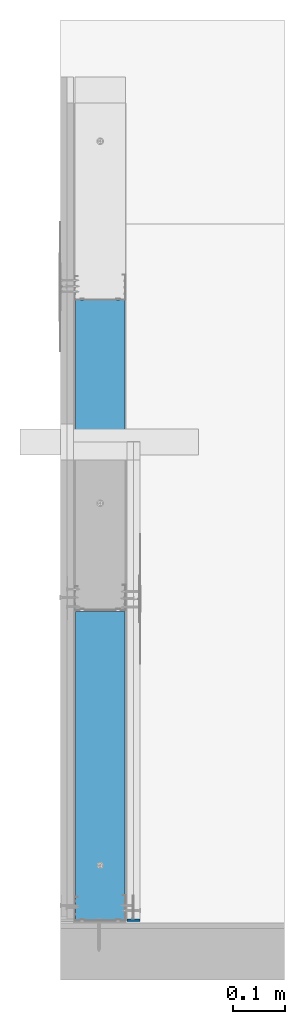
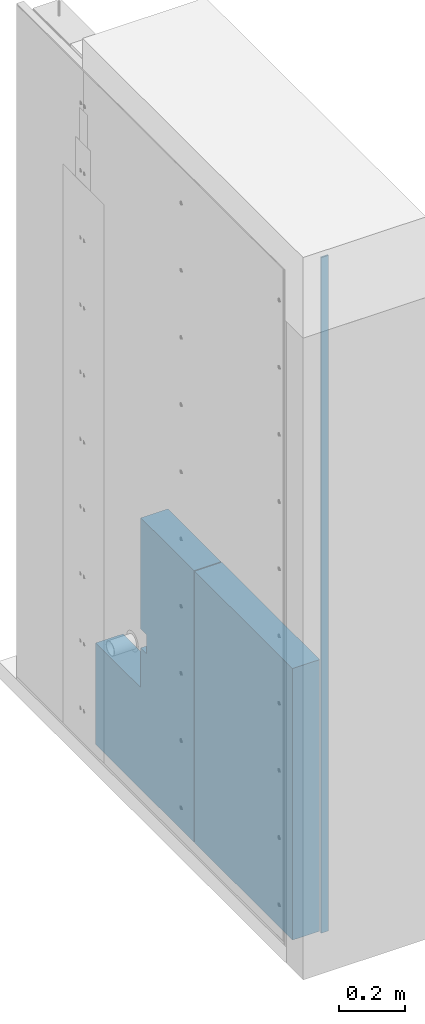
# One storey, part 3 of 92: 3 walls.
"""IFC2X3 building model written with IfcOpenShell, lengths in millimetres."""

import ifcopenshell
import ifcopenshell.guid

model = None  # the IFC model being written
_history = None  # IfcOwnerHistory: only IFC2X3 demands one
_inside = {}  # id of a spatial element -> (the spatial element, [elements in it])
_under = {}  # id of a project, library or spatial element -> (it, [spatial elements below it])
_declared = {}  # id of a project -> (the project, [libraries it declares])
_typed = {}  # id of a type object -> (the type object, [elements of that type])
_made_of = {}  # id of a material, layer set ... -> (it, [elements and type objects made of it])


def new_model(schema):
    """Start an empty IFC model of exactly this schema.

    Asked for "IFC4X3", IfcOpenShell would pick the latest addendum, in which some entities
    have other attributes; the version numbers below select the first issue.
    IFC2X3 requires an IfcOwnerHistory on every rooted entity: one is made here for all.
    """
    global model, _history
    if schema == "IFC4X3":
        model = ifcopenshell.file(schema_version=(4, 3, 0, 0))
    else:
        model = ifcopenshell.file(schema=schema)
    _inside.clear()
    _under.clear()
    _declared.clear()
    _typed.clear()
    _made_of.clear()
    _history = None
    if model.schema == "IFC2X3":
        org = make("IfcOrganization", Name="unknown")
        user = make(
            "IfcPersonAndOrganization",
            ThePerson=make("IfcPerson", FamilyName="unknown"),
            TheOrganization=org,
        )
        app = make(
            "IfcApplication",
            ApplicationDeveloper=org,
            Version="unknown",
            ApplicationFullName="unknown",
            ApplicationIdentifier="unknown",
        )
        _history = make(
            "IfcOwnerHistory",
            OwningUser=user,
            OwningApplication=app,
            ChangeAction="ADDED",
            CreationDate=0,
        )
    return model


def make(cls, **values):
    """One entity of the class cls with the attributes given. An attribute that is None is left unset."""
    return model.create_entity(
        cls, **{name: value for name, value in values.items() if value is not None}
    )


def rooted(cls, **values):
    """An entity with a GlobalId (a new one), such as an element, a storey or a relation."""
    return make(cls, GlobalId=ifcopenshell.guid.new(), OwnerHistory=_history, **values)


def si_unit(unit_type, name, prefix=None):
    """IfcSIUnit, for example si_unit("LENGTHUNIT", "METRE", prefix="MILLI")."""
    return make("IfcSIUnit", UnitType=unit_type, Prefix=prefix, Name=name)


def assignment(units):
    """IfcUnitAssignment: the units of a project."""
    return None if units is None else make("IfcUnitAssignment", Units=units)


def point(xyz):
    """IfcCartesianPoint."""
    return None if xyz is None else make("IfcCartesianPoint", Coordinates=xyz)


def direction(xyz):
    """IfcDirection."""
    return None if xyz is None else make("IfcDirection", DirectionRatios=xyz)


def frame(location, z_axis=None, x_axis=None):
    """IfcAxis2Placement3D, a coordinate frame: its origin and axes. An axis left out is left unset."""
    return make(
        "IfcAxis2Placement3D",
        Location=point(location),
        Axis=direction(z_axis),
        RefDirection=direction(x_axis),
    )


def origin_with_axes():
    """The frame at (0, 0, 0) with the z axis (0, 0, 1) and the x axis (1, 0, 0) written out."""
    return frame((0.0, 0.0, 0.0), z_axis=(0.0, 0.0, 1.0), x_axis=(1.0, 0.0, 0.0))


def place(relative_to, where):
    """IfcLocalPlacement: puts the frame where relative to a parent placement (None: the world)."""
    return make(
        "IfcLocalPlacement", PlacementRelTo=relative_to, RelativePlacement=where
    )


def context(
    kind, dimensions, precision=None, world=None, true_north=None, identifier=None
):
    """IfcGeometricRepresentationContext, for example the 3D "Model" context."""
    return make(
        "IfcGeometricRepresentationContext",
        ContextIdentifier=identifier,
        ContextType=kind,
        CoordinateSpaceDimension=dimensions,
        Precision=precision,
        WorldCoordinateSystem=world,
        TrueNorth=true_north,
    )


def subcontext(parent, identifier, kind, view, scale=None):
    """IfcGeometricRepresentationSubContext, for example "Body" below "Model"."""
    return make(
        "IfcGeometricRepresentationSubContext",
        ContextIdentifier=identifier,
        ContextType=kind,
        ParentContext=parent,
        TargetScale=scale,
        TargetView=view,
    )


def project(units=None, contexts=None):
    """IfcProject with its units and contexts."""
    return rooted(
        "IfcProject",
        Name="project",
        RepresentationContexts=contexts,
        UnitsInContext=assignment(units),
    )


def spatial(cls, under=None, at=None, **own):
    """A site, building, storey or space (cls), placed at a placement, below another one or the project."""
    s = rooted(cls, ObjectPlacement=at, **own)
    if under is not None:
        _under.setdefault(under.id(), (under, []))[1].append(s)
    return s


def faces_of(points, faces, orient=None, outer=None):
    """IfcFace entities. A face is a list of loops; a loop is a list of indices into points, from 0.

    orient and outer hold one flag for each loop. By default every Orientation is true, the
    first loop of a face is its IfcFaceOuterBound and the others are IfcFaceBound.
    """
    made = []
    for i, loops in enumerate(faces):
        bounds = []
        for j, loop in enumerate(loops):
            is_outer = j == 0 if outer is None else outer[i][j]
            bounds.append(
                make(
                    "IfcFaceOuterBound" if is_outer else "IfcFaceBound",
                    Bound=make("IfcPolyLoop", Polygon=[points[k] for k in loop]),
                    Orientation=True if orient is None else orient[i][j],
                )
            )
        made.append(make("IfcFace", Bounds=bounds))
    return made


def faceted_brep(points, faces, orient=None, outer=None, voids=None):
    """IfcFacetedBrep: a solid bounded by flat faces; with voids (closed shells), ...WithVoids."""
    shared = [point(p) for p in points]
    hull = make("IfcClosedShell", CfsFaces=faces_of(shared, faces, orient, outer))
    if voids is None:
        return make("IfcFacetedBrep", Outer=hull)
    return make(
        "IfcFacetedBrepWithVoids",
        Outer=hull,
        Voids=[
            make(cls, CfsFaces=faces_of(shared, fs, o, b)) for cls, fs, o, b in voids
        ],
    )


def shape(context_of_items, identifier, shape_type, items):
    """IfcShapeRepresentation: the items that make up one representation, for example the "Body"."""
    return make(
        "IfcShapeRepresentation",
        ContextOfItems=context_of_items,
        RepresentationIdentifier=identifier,
        RepresentationType=shape_type,
        Items=items,
    )


def material(Name=None, Category=None):
    """IfcMaterial."""
    return make("IfcMaterial", Name=Name, Category=Category)


def made_of(thing, what):
    """Note that an element or type object is made of a material, layer set ...; save() writes the relation."""
    if what is not None:
        _made_of.setdefault(what.id(), (what, []))[1].append(thing)
    return thing


def type_object(cls, material=None, **own):
    """A type object (cls), such as IfcWallType, which elements share."""
    return made_of(rooted(cls, **own), material)


def element(
    cls,
    number,
    at=None,
    inside=None,
    cuts=None,
    type_object=None,
    material=None,
    context=None,
    identifier="Body",
    shape_type=None,
    held_by="IfcProductDefinitionShape",
    body=None,
    shapes=None,
    **own,
):
    """One element of the class cls, such as IfcWall. Its Tag is "e" and its number.

    at: its placement. inside: the storey or other place that contains it. cuts: it is an
    opening in that element (IfcRelVoidsElement). A single representation is given by context,
    identifier, shape_type and body (its items); several are given by shapes. held_by: the class
    of the entity that holds the representations. save() writes the other relations.
    """
    e = rooted(cls, Tag="e%d" % number, ObjectPlacement=at, **own)
    if body is not None:
        shapes = [shape(context, identifier, shape_type, body)]
    if shapes is not None:
        e.Representation = make(held_by, Representations=shapes)
    if inside is not None:
        _inside.setdefault(inside.id(), (inside, []))[1].append(e)
    if cuts is not None:
        rooted(
            "IfcRelVoidsElement", RelatingBuildingElement=cuts, RelatedOpeningElement=e
        )
    if type_object is not None:
        _typed.setdefault(type_object.id(), (type_object, []))[1].append(e)
    return made_of(e, material)


def aggregate(whole, parts):
    """IfcRelAggregates: a whole, such as a stair, and the parts it consists of."""
    return rooted("IfcRelAggregates", RelatingObject=whole, RelatedObjects=parts)


def save(model, path):
    """Write the relations noted so far, then the file.

    IfcRelAggregates (storeys below a building ...), IfcRelContainedInSpatialStructure (elements
    in a storey), IfcRelDefinesByType, IfcRelAssociatesMaterial and IfcRelDeclares: one each for
    every whole, place, type object, material and project.
    """
    for whole, parts in _under.values():
        aggregate(whole, parts)
    for where, things in _inside.values():
        rooted(
            "IfcRelContainedInSpatialStructure",
            RelatedElements=things,
            RelatingStructure=where,
        )
    for kind, things in _typed.values():
        rooted("IfcRelDefinesByType", RelatedObjects=things, RelatingType=kind)
    for what, things in _made_of.values():
        rooted("IfcRelAssociatesMaterial", RelatedObjects=things, RelatingMaterial=what)
    for by, libraries in _declared.values():
        rooted("IfcRelDeclares", RelatingContext=by, RelatedDefinitions=libraries)
    model.write(path)


model = new_model("IFC2X3")

# Units and contexts
model_context = context("Model", 3, world=origin_with_axes())
body_context = subcontext(model_context, "Body", "Model", "MODEL_VIEW")
ifc_project = project(units=[si_unit("LENGTHUNIT", "METRE", prefix="MILLI"), si_unit("AREAUNIT", "SQUARE_METRE"), si_unit("VOLUMEUNIT", "CUBIC_METRE")], contexts=[model_context])

# Site, building, storey
site_placement = place(None, origin_with_axes())
site = spatial("IfcSite", under=ifc_project, at=site_placement, Name="Default Site", CompositionType="ELEMENT")
building_placement = place(site_placement, origin_with_axes())
building = spatial("IfcBuilding", under=site, at=building_placement, Name="Default Building", CompositionType="ELEMENT")
storey_placement = place(building_placement, origin_with_axes())
storey = spatial("IfcBuildingStorey", under=building, at=storey_placement, Name="Default Building Storey", CompositionType="ELEMENT", Elevation=0.0)

# Walls
ifc_material_1 = material(Name="Undefined5")
wall_type_1 = type_object("IfcWallType", Name="Masa szpachlowa konstrukcyjna RIGIPS#4", PredefinedType="NOTDEFINED")
wall_1_placement = place(storey_placement, frame((129.35000000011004, 123.00439172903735, -112.10698105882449), z_axis=(1.249000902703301e-16, -1.0, 3.608224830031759e-16), x_axis=(-2.6847463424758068e-31, -3.608224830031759e-16, -1.0)))
element("IfcWall", 1, at=wall_1_placement, inside=storey, type_object=wall_type_1, material=ifc_material_1, Name="Masa szpachlowa konstrukcyjna RIGIPS", context=body_context, shape_type="Brep", body=[
    faceted_brep([(-172.11096525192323, 24.64617043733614, 4.999999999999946), (-172.11096525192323, -0.3499999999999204, 4.999999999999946), (-2686.316981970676, -0.3499999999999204, 5.000000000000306), (-2686.316981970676, 24.64617043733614, 4.999999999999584), (-172.11096525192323, -0.3499999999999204, 10.00439262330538), (-2686.316981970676, -0.3499999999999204, 10.00439262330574), (-172.11096525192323, 24.64617043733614, 10.00439262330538), (-2686.316981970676, 24.64617043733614, 10.00439262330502)], [[[0, 1, 2, 3]], [[1, 4, 5, 2]], [[4, 6, 7, 5]], [[6, 0, 3, 7]], [[7, 3, 2, 5]], [[0, 6, 4, 1]]]),
])
ifc_material_2 = material(Name="Undefined7")
wall_type_2 = type_object("IfcWallType", Name="Wełna mineralna szklana lub skalna ISOVER", PredefinedType="NOTDEFINED")
wall_2_placement = place(storey_placement, frame((-3300.180436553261, 0.9453400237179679, 65.98496992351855), z_axis=(0.0, 0.0, 1.0), x_axis=(-8.743006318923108e-16, -1.0, 0.0)))
element("IfcWall", 2, at=wall_2_placement, inside=storey, type_object=wall_type_2, material=ifc_material_2, Name="Wełna mineralna szklana lub skalna ISOVER", context=body_context, shape_type="Brep", body=[
    faceted_brep([(-711.7212414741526, 3425.0929051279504, 1012.706370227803), (-114.07122761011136, 3425.092905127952, 1012.706370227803), (-114.07122761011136, 3425.092905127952, 2.3499999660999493), (-711.7212414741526, 3425.0929051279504, 2.3499999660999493), (-711.7212414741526, 3329.283237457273, 1012.706370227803), (-711.7212414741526, 3329.283237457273, 2.3499999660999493), (-114.07122761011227, 3329.283237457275, 2.3499999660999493), (-114.07122761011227, 3329.283237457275, 1012.706370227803)], [[[0, 1, 2, 3]], [[4, 0, 3, 5]], [[2, 6, 5, 3]], [[5, 6, 7, 4]], [[1, 7, 6, 2]]]),
    faceted_brep([(-711.7212414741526, 3329.283237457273, 1012.706370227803), (-114.07122761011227, 3329.283237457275, 1012.706370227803), (-114.07122761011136, 3425.092905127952, 1012.706370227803), (-711.7212414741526, 3425.0929051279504, 1012.706370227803)], [[[0, 1, 2, 3]]]),
])
wall_type_3 = type_object("IfcWallType", Name="Wełna mineralna szklana lub skalna ISOVER#6", PredefinedType="NOTDEFINED")
wall_3_placement = place(storey_placement, frame((-3300.1804365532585, 603.2942654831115, 65.98496992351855), z_axis=(0.0, 0.0, 1.0), x_axis=(-8.743006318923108e-16, -1.0, 0.0)))
element("IfcWall", 3, at=wall_3_placement, inside=storey, type_object=wall_type_3, material=ifc_material_2, Name="Wełna mineralna szklana lub skalna ISOVER", context=body_context, shape_type="Brep", body=[
    faceted_brep([(-711.7212414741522, 3425.0929051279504, 2.3499999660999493), (-711.7212414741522, 3425.0929051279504, 380.70637022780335), (-436.9212143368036, 3425.092905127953, 380.70637022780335), (-436.921214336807, 3425.092905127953, 529.0772845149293), (-401.93084317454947, 3425.0929051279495, 529.0772845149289), (-401.93084317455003, 3425.0929051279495, 599.0772851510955), (-436.92121433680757, 3425.092905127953, 599.0772851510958), (-436.9212143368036, 3425.092905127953, 1012.706370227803), (-112.27122625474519, 3425.0929051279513, 1012.706370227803), (-112.27122625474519, 3425.0929051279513, 2.3499999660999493), (-711.7212414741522, 3329.283237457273, 2.3499999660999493), (-711.7212414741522, 3329.283237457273, 380.70637022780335), (-112.27122625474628, 3329.283237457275, 2.3499999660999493), (-112.27122625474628, 3329.283237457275, 1012.706370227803), (-436.9212143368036, 3329.2832374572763, 1012.706370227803), (-436.92121433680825, 3329.2832374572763, 599.0772851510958), (-401.9308431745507, 3329.2832374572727, 599.0772851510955), (-401.9308431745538, 3329.2832374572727, 529.0772845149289), (-436.9212143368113, 3329.2832374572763, 529.0772845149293), (-436.9212143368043, 3329.2832374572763, 380.70637022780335)], [[[0, 1, 2, 3, 4, 5, 6, 7, 8, 9]], [[10, 11, 1, 0]], [[9, 12, 10, 0]], [[10, 12, 13, 14, 15, 16, 17, 18, 19, 11]], [[8, 13, 12, 9]]]),
    faceted_brep([(-436.9212143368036, 3425.092905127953, 1012.706370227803), (-436.9212143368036, 3329.2832374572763, 1012.706370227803), (-112.27122625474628, 3329.283237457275, 1012.706370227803), (-112.27122625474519, 3425.0929051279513, 1012.706370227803), (-711.7212414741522, 3329.283237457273, 380.70637022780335), (-436.9212143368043, 3329.2832374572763, 380.70637022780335), (-436.9212143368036, 3425.092905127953, 380.70637022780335), (-711.7212414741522, 3425.0929051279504, 380.70637022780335), (-436.9212143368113, 3329.2832374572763, 529.0772845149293), (-436.921214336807, 3425.092905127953, 529.0772845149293), (-401.93084317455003, 3425.0929051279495, 599.0772851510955), (-401.93084317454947, 3425.0929051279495, 529.0772845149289), (-401.9308431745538, 3329.2832374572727, 529.0772845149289), (-401.9308431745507, 3329.2832374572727, 599.0772851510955), (-436.92121433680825, 3329.2832374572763, 599.0772851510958), (-436.92121433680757, 3425.092905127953, 599.0772851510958)], [[[0, 1, 2, 3]], [[4, 5, 6, 7]], [[5, 8, 9, 6]], [[10, 11, 12, 13]], [[9, 8, 12, 11]], [[14, 15, 10, 13]], [[15, 14, 1, 0]]]),
])

save(model, "model.ifc")
